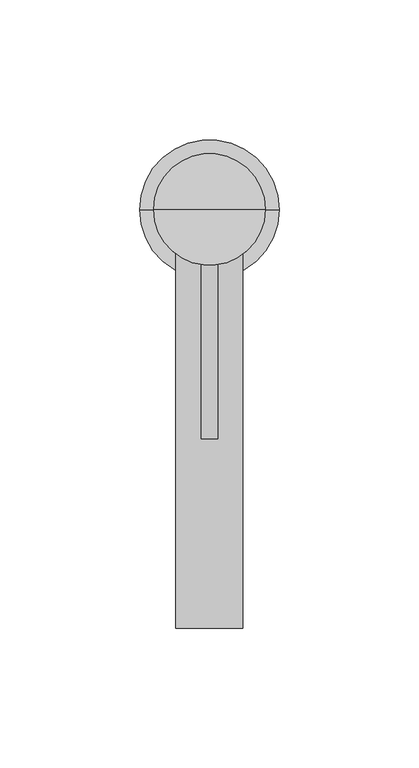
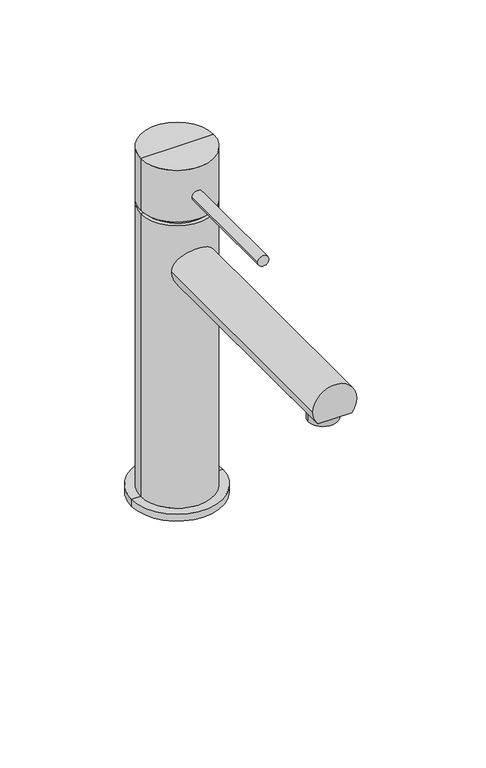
"""IFC4 building model written with IfcOpenShell, lengths in millimetres: flow terminal geometry, GF_TINA-LAVAMANOS : MEZCLADOR MONOMANDO DE LAVABO - MINUSVALIDOS."""

from ifc_helpers import new_model, si_unit, point, frame, frame_2d, origin, place, context, project, spatial, circle_curve, trimmed, segment, composite_curve, outline, extrude, source, transform, mapped, element, save
from ifc_brep_helpers import plane_surface, cylinder_surface, advanced_brep


def flow_terminal_bd7e037a(model_context):
    return source(origin(), model_context, "Body", "SolidModel", [
        advanced_brep(
        [(12.0, -150.0, 140.6419785), (-12.0, -150.0, 140.6419785), (-9.3914315, -150.0, 133.1719709), (9.3914315, -150.0, 133.1719709), (-12.0, 0.0, 140.6419785), (12.0, 0.0, 140.6419785), (9.3914315, -125.0, 133.1719709), (-9.3914315, -125.0, 133.1719709)],
        [
            (0, 1, circle_curve(frame((0.0, -150.0, 140.6419785), z_axis=(0.0, -1.0, 0.0), x_axis=(1.0, 0.0, 0.0)), 12.0)),
            (1, 2, circle_curve(frame((0.0, -150.0, 140.6419785), z_axis=(0.0, -1.0, 0.0), x_axis=(1.0, 0.0, 0.0)), 12.0)),
            (2, 3),
            (3, 0, circle_curve(frame((0.0, -150.0, 140.6419785), z_axis=(0.0, -1.0, 0.0), x_axis=(1.0, 0.0, 0.0)), 12.0)),
            (4, 5, circle_curve(frame((0.0, 0.0, 140.6419785), z_axis=(0.0, 1.0, 0.0), x_axis=(1.0, 0.0, 0.0)), 12.0)),
            (5, 4, circle_curve(frame((0.0, 0.0, 140.6419785), z_axis=(0.0, 1.0, 0.0), x_axis=(1.0, 0.0, 0.0)), 12.0)),
            (5, 0),
            (3, 6),
            (6, 7, circle_curve(frame((0.0, -125.0, 140.6419785), z_axis=(0.0, 1.0, 0.0), x_axis=(1.0, 0.0, 0.0)), 12.0)),
            (7, 2),
            (1, 4),
            (7, 6),
        ],
        [
            plane_surface(frame((12.0, -150.0, 140.6419785), z_axis=(0.0, -1.0, 0.0), x_axis=(0.0, 0.0, 1.0))),
            plane_surface(frame((12.0, 0.0, 140.6419785), z_axis=(0.0, 1.0, 0.0), x_axis=(0.0, 0.0, -1.0))),
            cylinder_surface(frame((0.0, 0.0, 140.6419785), z_axis=(0.0, -1.0, 0.0), x_axis=(1.0, 0.0, 0.0)), 12.0),
            plane_surface(frame((-15.4149683, -150.0, 133.1719709), z_axis=(0.0, 0.0, -1.0), x_axis=(1.0, 0.0, 0.0))),
            plane_surface(frame((-15.4149683, -125.0, 133.1719709), z_axis=(0.0, -1.0, 0.0), x_axis=(1.0, 0.0, 0.0))),
        ],
        [
            (0, [[1, 2, 3, 4]]),
            (1, [[5, 6]]),
            (2, [[-6, 7, -4, 8, 9, 10, -2, 11]]),
            (2, [[-1, -7, -5, -11]]),
            (3, [[12, -8, -3, -10]]),
            (4, [[-12, -9]]),
        ],
    ),
        extrude(outline(composite_curve([segment(trimmed(circle_curve(frame_2d((183.2676852, 0.0)), 3.0), [point((183.2676852, -3.0))], [point((183.2676852, 3.0))], False, "CARTESIAN"), True, "CONTINUOUS"), segment(trimmed(circle_curve(frame_2d((183.2676852, 0.0)), 3.0), [point((183.2676852, 3.0))], [point((183.2676852, -3.0))], False, "CARTESIAN"), True, "CONTINUOUS")], self_intersect=False)), frame((0.0, -82.0430665, 0.0), z_axis=(0.0, 1.0, 0.0), x_axis=(0.0, 0.0, 1.0)), (0.0, 0.0, 1.0), 82.0430665),
        advanced_brep(
        [(0.0, 0.0, 0.0), (-25.0, 0.0, 0.0), (25.0, 0.0, 0.0), (20.0, 0.0, 200.0), (-20.0, 0.0, 200.0), (0.0, 0.0, 200.0), (20.0, 0.0, 170.0), (-20.0, 0.0, 170.0), (18.0, 0.0, 170.0), (-18.0, 0.0, 170.0), (18.0, 0.0, 168.0), (-18.0, 0.0, 168.0), (20.0, 0.0, 168.0), (-20.0, 0.0, 168.0), (20.0, 0.0, 4.0), (-20.0, 0.0, 4.0), (25.0, 0.0, 4.0), (-25.0, 0.0, 4.0)],
        [
            (0, 1),
            (1, 2, circle_curve(frame((0.0, 0.0, 0.0), z_axis=(0.0, 0.0, -1.0), x_axis=(-1.0, 0.0, 0.0)), 25.0)),
            (2, 0),
            (2, 1, circle_curve(frame((0.0, 0.0, 0.0), z_axis=(0.0, 0.0, -1.0), x_axis=(-1.0, 0.0, 0.0)), 25.0)),
            (3, 4, circle_curve(frame((0.0, 0.0, 200.0), z_axis=(0.0, 0.0, 1.0), x_axis=(-1.0, 0.0, 0.0)), 20.0)),
            (4, 5),
            (5, 3),
            (4, 3, circle_curve(frame((0.0, 0.0, 200.0), z_axis=(0.0, 0.0, 1.0), x_axis=(-1.0, 0.0, 0.0)), 20.0)),
            (3, 6),
            (6, 7, circle_curve(frame((0.0, 0.0, 170.0), z_axis=(0.0, 0.0, 1.0), x_axis=(-1.0, 0.0, 0.0)), 20.0)),
            (7, 4),
            (7, 6, circle_curve(frame((0.0, 0.0, 170.0), z_axis=(0.0, 0.0, 1.0), x_axis=(-1.0, 0.0, 0.0)), 20.0)),
            (6, 8),
            (8, 9, circle_curve(frame((0.0, 0.0, 170.0), z_axis=(0.0, 0.0, 1.0), x_axis=(-1.0, 0.0, 0.0)), 18.0)),
            (9, 7),
            (9, 8, circle_curve(frame((0.0, 0.0, 170.0), z_axis=(0.0, 0.0, 1.0), x_axis=(-1.0, 0.0, 0.0)), 18.0)),
            (8, 10),
            (10, 11, circle_curve(frame((0.0, 0.0, 168.0), z_axis=(0.0, 0.0, 1.0), x_axis=(-1.0, 0.0, 0.0)), 18.0)),
            (11, 9),
            (11, 10, circle_curve(frame((0.0, 0.0, 168.0), z_axis=(0.0, 0.0, 1.0), x_axis=(-1.0, 0.0, 0.0)), 18.0)),
            (10, 12),
            (12, 13, circle_curve(frame((0.0, 0.0, 168.0), z_axis=(0.0, 0.0, 1.0), x_axis=(-1.0, 0.0, 0.0)), 20.0)),
            (13, 11),
            (13, 12, circle_curve(frame((0.0, 0.0, 168.0), z_axis=(0.0, 0.0, 1.0), x_axis=(-1.0, 0.0, 0.0)), 20.0)),
            (12, 14),
            (14, 15, circle_curve(frame((0.0, 0.0, 4.0), z_axis=(0.0, 0.0, 1.0), x_axis=(-1.0, 0.0, 0.0)), 20.0)),
            (15, 13),
            (15, 14, circle_curve(frame((0.0, 0.0, 4.0), z_axis=(0.0, 0.0, 1.0), x_axis=(-1.0, 0.0, 0.0)), 20.0)),
            (14, 16),
            (16, 17, circle_curve(frame((0.0, 0.0, 4.0), z_axis=(0.0, 0.0, 1.0), x_axis=(-1.0, 0.0, 0.0)), 25.0)),
            (17, 15),
            (17, 16, circle_curve(frame((0.0, 0.0, 4.0), z_axis=(0.0, 0.0, 1.0), x_axis=(-1.0, 0.0, 0.0)), 25.0)),
            (1, 17),
            (16, 2),
        ],
        [
            plane_surface(frame((0.0, 0.0, 0.0), z_axis=(0.0, 0.0, -1.0), x_axis=(-1.0, 0.0, 0.0))),
            plane_surface(frame((0.0, 0.0, 200.0), z_axis=(0.0, 0.0, 1.0), x_axis=(-1.0, 0.0, 0.0))),
            cylinder_surface(frame((0.0, 0.0, -25.0), z_axis=(0.0, 0.0, -1.0), x_axis=(-1.0, 0.0, 0.0)), 20.0),
            plane_surface(frame((0.0, 0.0, 170.0), z_axis=(0.0, 0.0, -1.0), x_axis=(-1.0, 0.0, 0.0))),
            cylinder_surface(frame((0.0, 0.0, -25.0), z_axis=(0.0, 0.0, -1.0), x_axis=(-1.0, 0.0, 0.0)), 18.0),
            plane_surface(frame((0.0, 0.0, 168.0), z_axis=(0.0, 0.0, 1.0), x_axis=(-1.0, 0.0, 0.0))),
            plane_surface(frame((0.0, 0.0, 4.0), z_axis=(0.0, 0.0, 1.0), x_axis=(-1.0, 0.0, 0.0))),
            cylinder_surface(frame((0.0, 0.0, -25.0), z_axis=(0.0, 0.0, -1.0), x_axis=(-1.0, 0.0, 0.0)), 25.0),
        ],
        [
            (0, [[1, 2, 3]]),
            (0, [[-1, -3, 4]]),
            (1, [[5, 6, 7]]),
            (1, [[-6, 8, -7]]),
            (2, [[-5, 9, 10, 11]]),
            (2, [[-8, -11, 12, -9]]),
            (3, [[-10, 13, 14, 15]]),
            (3, [[-12, -15, 16, -13]]),
            (4, [[-14, 17, 18, 19]]),
            (4, [[-16, -19, 20, -17]]),
            (5, [[-18, 21, 22, 23]]),
            (5, [[-20, -23, 24, -21]]),
            (2, [[-22, 25, 26, 27]]),
            (2, [[-24, -27, 28, -25]]),
            (6, [[-26, 29, 30, 31]]),
            (6, [[-28, -31, 32, -29]]),
            (7, [[-2, 33, -30, 34]]),
            (7, [[-4, -34, -32, -33]]),
        ],
    ),
        advanced_brep(
        [(-8.0, -138.7213883, 133.1719709), (8.0, -138.7213883, 133.1719709), (-8.0, -138.7213883, 127.0717002), (8.0, -138.7213883, 127.0717002)],
        [
            (0, 1, circle_curve(frame((0.0, -138.7213883, 133.1719709), z_axis=(0.0, 0.0, 1.0), x_axis=(1.0, 0.0, 0.0)), 8.0)),
            (1, 0, circle_curve(frame((0.0, -138.7213883, 133.1719709), z_axis=(0.0, 0.0, 1.0), x_axis=(1.0, 0.0, 0.0)), 8.0)),
            (2, 3, circle_curve(frame((0.0, -138.7213883, 127.0717002), z_axis=(0.0, 0.0, -1.0), x_axis=(1.0, 0.0, 0.0)), 8.0)),
            (3, 2, circle_curve(frame((0.0, -138.7213883, 127.0717002), z_axis=(0.0, 0.0, -1.0), x_axis=(1.0, 0.0, 0.0)), 8.0)),
            (0, 2),
            (3, 1),
        ],
        [
            plane_surface(frame((8.0, -138.7213883, 133.1719709), z_axis=(0.0, 0.0, 1.0), x_axis=(0.0, 1.0, 0.0))),
            plane_surface(frame((8.0, -138.7213883, 127.0717002), z_axis=(0.0, 0.0, -1.0), x_axis=(0.0, -1.0, 0.0))),
            cylinder_surface(frame((0.0, -138.7213883, 127.0717002), z_axis=(0.0, 0.0, 1.0), x_axis=(1.0, 0.0, 0.0)), 8.0),
        ],
        [
            (0, [[1, 2]]),
            (1, [[3, 4]]),
            (2, [[-1, 5, -4, 6]]),
            (2, [[-2, -6, -3, -5]]),
        ],
    ),
    ])


if __name__ == "__main__":
    model = new_model("IFC4")
    model_context = context("Model", 3, world=origin())
    ifc_project = project(units=[si_unit("LENGTHUNIT", "METRE", prefix="MILLI")], contexts=[model_context])
    site = spatial("IfcSite", under=ifc_project)
    building = spatial("IfcBuilding", under=site)
    placement = place(None, origin())
    flow_terminal_shape = flow_terminal_bd7e037a(model_context)
    element("IfcFlowTerminal", 1, ObjectType="GF_TINA-LAVAMANOS : MEZCLADOR MONOMANDO DE LAVABO - MINUSVALIDOS", at=placement, inside=building, context=model_context, shape_type="MappedRepresentation", body=[
        mapped(flow_terminal_shape, transform((0.0, 0.0, 0.0), x_axis=(1.0, 0.0, 0.0), y_axis=(0.0, 1.0, 0.0), z_axis=(0.0, 0.0, 1.0))),
    ])
    save(model, "model.ifc")
